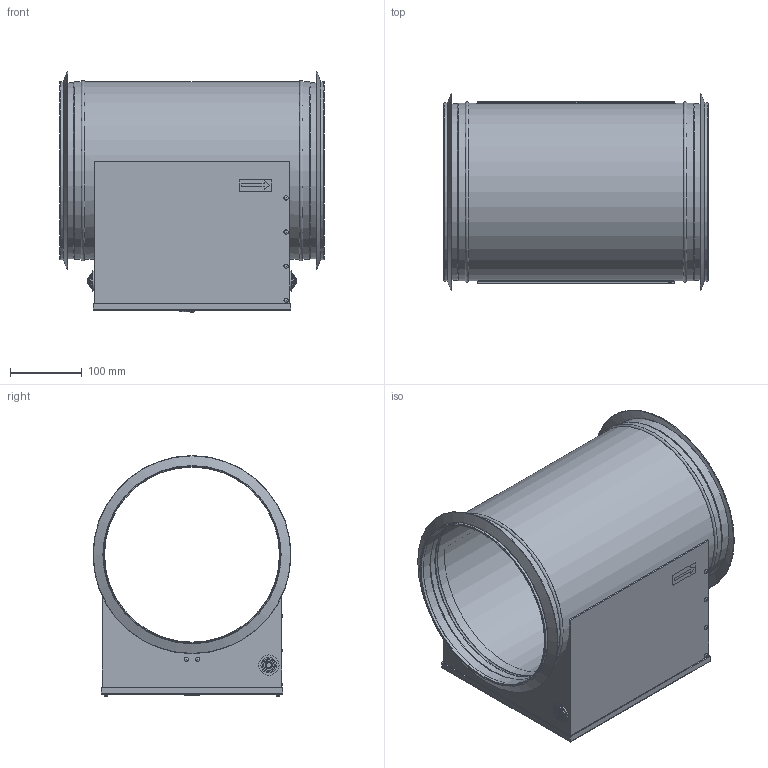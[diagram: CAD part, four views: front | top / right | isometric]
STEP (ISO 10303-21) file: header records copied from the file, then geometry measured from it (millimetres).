
FILE_DESCRIPTION(/* description */ (''),/* implementation_level */ '2;1');
FILE_NAME(/* name */ 'C:\WF Home\Thomas Mønsted\01 - Ventilation\Ventmatica\063225 - 230V Ø250 on_off _max. 1800 watt.stp',/* time_stamp */ '2020-05-14T13:40:10+02:00',/* author */ ('3113thmo'),/* organization */ (''),/* preprocessor_version */ 'ST-DEVELOPER v16.13',/* originating_system */ 'Autodesk Inventor 2018',/* authorisation */ '');
FILE_SCHEMA (('AUTOMOTIVE_DESIGN { 1 0 10303 214 3 1 1 }'));
Length unit declared in the file: millimetre
Products named in the file (1): 063225 - 230V Ø250 on_off _max. 1800 watt
Bounding box: 370 x 276.68 x 336.37 mm (x, y, z)
Volume: 7038072.5 mm3; surface area: 763452.4 mm2
Topology: 1 solids, 4 shells, 322 faces, 825 edges, 544 vertices
Faces by surface type: plane 181, bspline 74, cylinder 47, cone 10, torus 8, sphere 2
Full cylindrical faces by diameter (mm): 6 x1, 7 x2, 8.2 x2, 10 x1, 10.5 x2, 12 x1, 15 x2, 18 x2, 22 x2, 28.5 x2, 244.6 x2, 246 x2, 246.6 x3, 248 x5, 249 x2
Entity records: 12048 total; most frequent: CARTESIAN_POINT 4229, ORIENTED_EDGE 1532, DIRECTION 1448, EDGE_CURVE 766, AXIS2_PLACEMENT_3D 562, VERTEX_POINT 544, EDGE_LOOP 420, LINE 324
